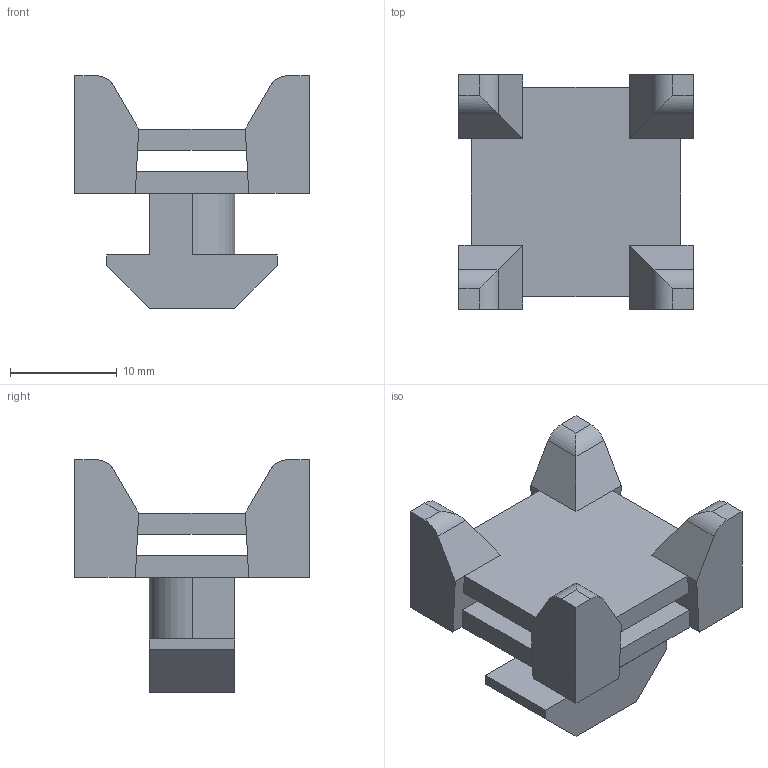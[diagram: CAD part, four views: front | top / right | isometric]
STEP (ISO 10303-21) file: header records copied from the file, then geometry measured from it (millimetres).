
FILE_DESCRIPTION (( 'STEP AP203' ), '1' );
FILE_NAME ('0108KBBL.STEP', '2024-09-04T08:10:10', ( 'Windows-Benutzer' ), ( '' ), 'SwSTEP 2.0', 'SolidWorks 2024', '' );
FILE_SCHEMA (( 'CONFIG_CONTROL_DESIGN' ));
Length unit declared in the file: millimetre
Products named in the file (1): 0108KBBL
Bounding box: 22 x 22 x 21.8 mm (x, y, z)
Volume: 3278.4 mm3; surface area: 2800.1 mm2
Topology: 1 solids, 1 shells, 61 faces, 180 edges, 116 vertices
Faces by surface type: plane 51, cylinder 10
Entity records: 2079 total; most frequent: CARTESIAN_POINT 370, ORIENTED_EDGE 360, DIRECTION 312, EDGE_CURVE 180, VECTOR 164, LINE 164, VERTEX_POINT 116, AXIS2_PLACEMENT_3D 74
